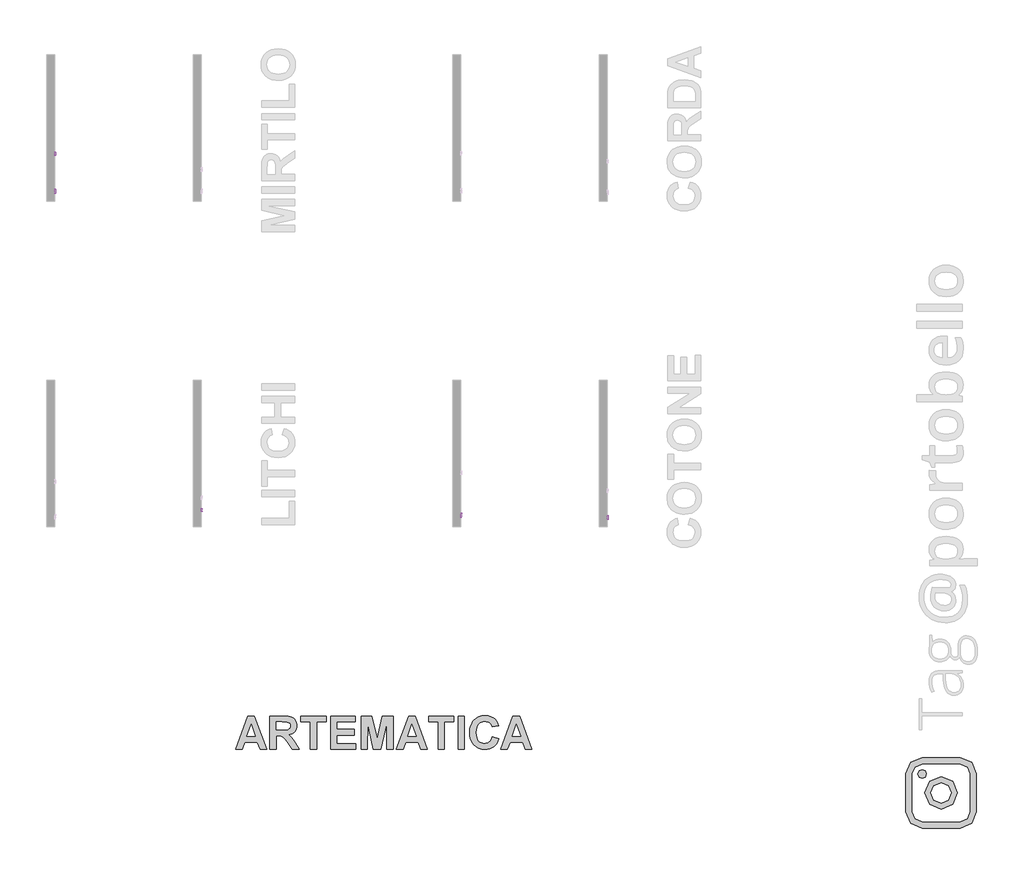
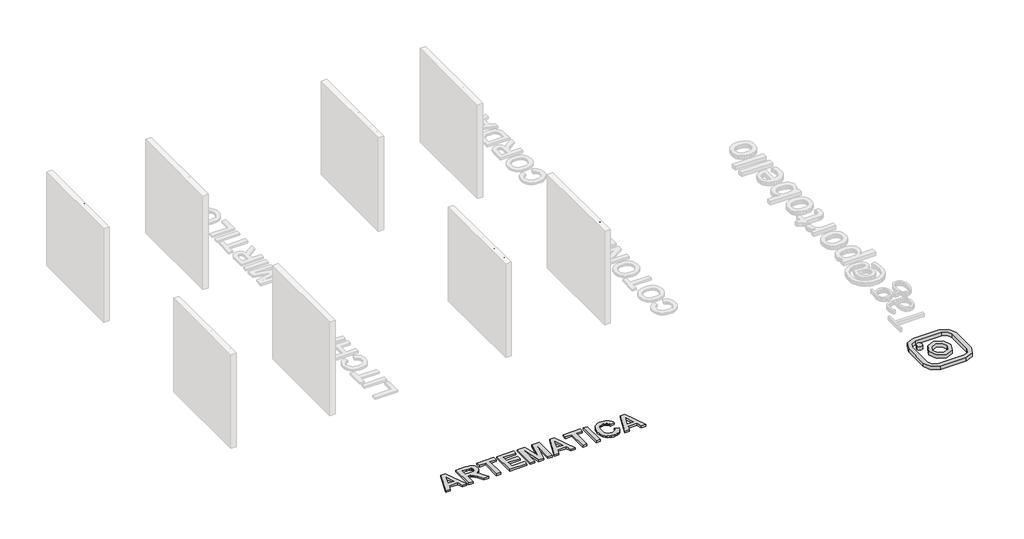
# One storey, part 3 of 9: 7 proxies.
"""IFC4 building model written with IfcOpenShell, lengths in millimetres."""

from ifc_helpers import new_model, si_unit, frame, origin, origin_with_axes, place, context, project, spatial, polyline, outline, extrude, transform, mapped, element, save
from components import generic_models_d67f6705

model = new_model("IFC4")

# Units and contexts
model_context = context("Model", 3, world=origin())
ifc_project = project(units=[si_unit("LENGTHUNIT", "METRE", prefix="MILLI")], contexts=[model_context])

# Site, building, storey
site = spatial("IfcSite", under=ifc_project)
building = spatial("IfcBuilding", under=site)
storey = spatial("IfcBuildingStorey", under=building, Name="PORTOBELLO - SHOWROOM", Elevation=0.0)

# Proxies
placement = place(None, origin())
generic_models_shape = generic_models_d67f6705(model_context)
element("IfcBuildingElementProxy", 1, Name="Blks_Instagram1 : Único 2", ObjectType="Blks_Instagram1 : Único 2", at=placement, inside=storey, context=model_context, shape_type="MappedRepresentation", body=[
    mapped(generic_models_shape, transform((14142.3733438, -13501.2406298, 0.0), x_axis=(-1.0, 0.0, 0.0), y_axis=(0.0, -1.0, 0.0), z_axis=(0.0, 0.0, 1.0))),
])
element("IfcBuildingElementProxy", 2, Name="10mm Arial", ObjectType="10mm Arial", at=placement, inside=storey, context=model_context, shape_type="SweptSolid", body=[
    extrude(outline(polyline([(-8391.2792549, 2594.0037435), (-8378.7222161, 2590.7663819), (-8384.5163575, 2576.1338755), (-8393.6091742, 2565.4438379), (-8405.5530763, 2558.9047354), (-8419.9004741, 2556.7250346), (-8434.4655354, 2558.3743722), (-8446.0323585, 2563.3223851), (-8454.8983146, 2571.3973948), (-8461.3607749, 2582.4277233), (-8466.6214875, 2609.283109), (-8465.1346311, 2623.9309438), (-8460.6740619, 2636.579953), (-8453.4727718, 2646.8285323), (-8443.7637528, 2654.275077), (-8432.2490464, 2658.8092226), (-8419.630694, 2660.3206045), (-8405.8627103, 2658.3646985), (-8394.4798282, 2652.4969807), (-8385.837667, 2643.0792016), (-8380.2918459, 2630.4731119), (-8392.8488847, 2627.481005), (-8403.1495806, 2642.9197861), (-8420.1212033, 2647.7635657), (-8439.7661018, 2642.3924886), (-8450.8638754, 2627.9715143), (-8454.0644487, 2609.3076345), (-8450.2752642, 2587.6761731), (-8438.4785148, 2573.8560729), (-8421.1512729, 2569.2820734), (-8410.6697017, 2570.8394405), (-8401.93557, 2575.5115418), (-8395.3412852, 2583.2493265), (-8391.2792549, 2594.0037435)])), frame((7985.6593854, 0.0, 0.0), z_axis=(1.0, 0.0, 0.0), x_axis=(0.0, 1.0, 0.0)), (0.0, 0.0, 1.0), 20.0),
    extrude(outline(polyline([(-8366.1651773, 2595.1809658), (-8363.4489819, 2612.9680603), (-8355.3003957, 2625.4699168), (-8345.2326918, 2631.595152), (-8333.1784251, 2633.6368971), (-8319.9867899, 2631.1506279), (-8309.4500364, 2623.6918205), (-8302.5430519, 2611.8490859), (-8300.2407238, 2596.2110354), (-8304.3119512, 2573.8683356), (-8316.1700142, 2561.2254577), (-8333.1784251, 2556.7250346), (-8346.5294758, 2559.2021067), (-8357.0539666, 2566.633323), (-8363.8873746, 2578.7243779), (-8366.1651773, 2595.1809658)]), holes=[polyline([(-8353.6081386, 2595.2054913), (-8352.1550047, 2583.8410033), (-8347.795603, 2575.7445338), (-8341.2350408, 2570.8976885), (-8333.1784251, 2569.2820734), (-8325.1585976, 2570.9068855), (-8318.6102981, 2575.781322), (-8314.2508964, 2583.9850905), (-8312.7977626, 2595.5978988), (-8314.2600935, 2606.6312929), (-8318.6470863, 2614.6173979), (-8325.2045829, 2619.4642432), (-8333.1784251, 2621.0798583), (-8341.2350408, 2619.4703746), (-8347.795603, 2614.6419234), (-8352.1550047, 2606.5638479), (-8353.6081386, 2595.2054913)])]), frame((7985.6593854, 0.0, 0.0), z_axis=(1.0, 0.0, 0.0), x_axis=(0.0, 1.0, 0.0)), (0.0, 0.0, 1.0), 20.0),
    extrude(outline(polyline([(-8259.4303478, 2568.7670386), (-8257.860718, 2557.9267825), (-8267.2539716, 2556.7250346), (-8277.7753966, 2558.8096992), (-8283.0238464, 2564.2788782), (-8284.5444253, 2578.5281742), (-8284.5444253, 2619.5102285), (-8293.9622044, 2619.5102285), (-8293.9622044, 2632.0672672), (-8284.5444253, 2632.0672672), (-8284.5444253, 2649.9953831), (-8271.9873866, 2657.3775485), (-8271.9873866, 2632.0672672), (-8259.4303478, 2632.0672672), (-8259.4303478, 2619.5102285), (-8271.9873866, 2619.5102285), (-8271.9873866, 2578.8960562), (-8271.325199, 2572.4213331), (-8269.1792207, 2570.128202), (-8264.8995268, 2569.2820734), (-8259.4303478, 2568.7670386)])), frame((7985.6593854, 0.0, 0.0), z_axis=(1.0, 0.0, 0.0), x_axis=(0.0, 1.0, 0.0)), (0.0, 0.0, 1.0), 20.0),
    extrude(outline(polyline([(-8250.0125687, 2595.1809658), (-8247.2963733, 2612.9680603), (-8239.1477871, 2625.4699168), (-8229.0800832, 2631.595152), (-8217.0258165, 2633.6368971), (-8203.8341813, 2631.1506279), (-8193.2974278, 2623.6918205), (-8186.3904433, 2611.8490859), (-8184.0881152, 2596.2110354), (-8188.1593426, 2573.8683356), (-8200.0174056, 2561.2254577), (-8217.0258165, 2556.7250346), (-8230.3768672, 2559.2021067), (-8240.901358, 2566.633323), (-8247.734766, 2578.7243779), (-8250.0125687, 2595.1809658)]), holes=[polyline([(-8237.45553, 2595.2054913), (-8236.0023961, 2583.8410033), (-8231.6429944, 2575.7445338), (-8225.0824322, 2570.8976885), (-8217.0258165, 2569.2820734), (-8209.005989, 2570.9068855), (-8202.4576895, 2575.781322), (-8198.0982878, 2583.9850905), (-8196.645154, 2595.5978988), (-8198.1074849, 2606.6312929), (-8202.4944777, 2614.6173979), (-8209.0519742, 2619.4642432), (-8217.0258165, 2621.0798583), (-8225.0824322, 2619.4703746), (-8231.6429944, 2614.6419234), (-8236.0023961, 2606.5638479), (-8237.45553, 2595.2054913)])]), frame((7985.6593854, 0.0, 0.0), z_axis=(1.0, 0.0, 0.0), x_axis=(0.0, 1.0, 0.0)), (0.0, 0.0, 1.0), 20.0),
    extrude(outline(polyline([(-8169.9614466, 2558.2946645), (-8169.9614466, 2632.0672672), (-8157.4044078, 2632.0672672), (-8157.4044078, 2621.7665714), (-8147.8026877, 2630.6693156), (-8134.693826, 2633.6368971), (-8122.835763, 2631.2456641), (-8114.7423591, 2624.9671447), (-8110.9777, 2615.7333066), (-8110.3155124, 2603.5932008), (-8110.3155124, 2558.2946645), (-8122.8725512, 2558.2946645), (-8122.8725512, 2601.9009436), (-8124.3195537, 2613.0109799), (-8129.4331134, 2618.8848291), (-8138.0538149, 2621.0798583), (-8151.6777114, 2616.1502396), (-8155.9727337, 2609.0071975), (-8157.4044078, 2597.4373087), (-8157.4044078, 2558.2946645), (-8169.9614466, 2558.2946645)])), frame((7985.6593854, 0.0, 0.0), z_axis=(1.0, 0.0, 0.0), x_axis=(0.0, 1.0, 0.0)), (0.0, 0.0, 1.0), 20.0),
    extrude(outline(polyline([(-8041.398952, 2580.2694823), (-8029.0871679, 2578.6998525), (-8033.5232116, 2569.4230948), (-8040.6018743, 2562.4885192), (-8050.1637405, 2558.1659058), (-8062.0493947, 2556.7250346), (-8076.7830686, 2559.2113038), (-8088.1199654, 2566.6701112), (-8095.3488466, 2578.617079), (-8097.7584737, 2594.5678292), (-8095.3243211, 2611.0550739), (-8088.0218635, 2623.3852521), (-8076.8382509, 2631.0739858), (-8062.7606332, 2633.6368971), (-8049.1214082, 2631.0801172), (-8038.2229041, 2623.4097776), (-8031.0767963, 2611.1041249), (-8028.6947604, 2594.6414056), (-8028.7683368, 2591.2568912), (-8085.2014349, 2591.2568912), (-8083.0278654, 2581.8575062), (-8077.978685, 2574.9474561), (-8070.6915559, 2570.6984191), (-8061.80414, 2569.2820734), (-8049.4923559, 2571.9062983), (-8041.398952, 2580.2694823)]), holes=[polyline([(-8085.2014349, 2603.81393), (-8041.2517992, 2603.81393), (-8046.2795198, 2615.1937464), (-8053.6003715, 2619.6083303), (-8062.8096841, 2621.0798583), (-8078.2729906, 2616.3832315), (-8083.13823, 2610.8925927), (-8085.2014349, 2603.81393)])]), frame((7985.6593854, 0.0, 0.0), z_axis=(1.0, 0.0, 0.0), x_axis=(0.0, 1.0, 0.0)), (0.0, 0.0, 1.0), 20.0),
])
element("IfcBuildingElementProxy", 3, Name="10mm Arial", ObjectType="10mm Arial", at=placement, inside=storey, context=model_context, shape_type="SweptSolid", body=[
    extrude(outline(polyline([(-8462.4526285, 2555.2578696), (-8462.4526285, 2655.7141797), (-8449.8955897, 2655.7141797), (-8449.8955897, 2567.8149084), (-8399.6674346, 2567.8149084), (-8399.6674346, 2555.2578696), (-8462.4526285, 2555.2578696)])), frame((499.3339478, 0.0, 0.0), z_axis=(1.0, 0.0, 0.0), x_axis=(0.0, 1.0, 0.0)), (0.0, 0.0, 1.0), 20.0),
    extrude(outline(polyline([(519.3339478, -8374.5533571), (519.3339478, -8387.1103959), (499.3339478, -8387.1103959), (499.3339478, -8374.5533571), (519.3339478, -8374.5533571)])), frame((0.0, 0.0, 2643.157141), z_axis=(0.0, 0.0, 1.0), x_axis=(1.0, 0.0, 0.0)), (0.0, 0.0, 1.0), 12.5570388),
    extrude(outline(polyline([(519.3339478, -8374.5533571), (519.3339478, -8387.1103959), (499.3339478, -8387.1103959), (499.3339478, -8374.5533571), (519.3339478, -8374.5533571)])), frame((0.0, 0.0, 2555.2578696), z_axis=(0.0, 0.0, 1.0), x_axis=(1.0, 0.0, 0.0)), (0.0, 0.0, 1.0), 73.7726028),
    extrude(outline(polyline([(-8329.0340916, 2565.7302437), (-8327.4644617, 2554.8899876), (-8336.8577153, 2553.6882397), (-8347.3791404, 2555.7729044), (-8352.6275902, 2561.2420834), (-8354.1481691, 2575.4913793), (-8354.1481691, 2616.4734336), (-8363.5659482, 2616.4734336), (-8363.5659482, 2629.0304724), (-8354.1481691, 2629.0304724), (-8354.1481691, 2646.9585882), (-8341.5911303, 2654.3407536), (-8341.5911303, 2629.0304724), (-8329.0340916, 2629.0304724), (-8329.0340916, 2616.4734336), (-8341.5911303, 2616.4734336), (-8341.5911303, 2575.8592613), (-8340.9289427, 2569.3845382), (-8338.7829644, 2567.0914071), (-8334.5032705, 2566.2452785), (-8329.0340916, 2565.7302437)])), frame((499.3339478, 0.0, 0.0), z_axis=(1.0, 0.0, 0.0), x_axis=(0.0, 1.0, 0.0)), (0.0, 0.0, 1.0), 20.0),
    extrude(outline(polyline([(-8269.3881574, 2581.941577), (-8256.8311186, 2580.3719471), (-8260.332129, 2569.2036629), (-8266.9110853, 2560.7638368), (-8275.9487197, 2555.457139), (-8286.825764, 2553.6882397), (-8300.1829461, 2556.1561148), (-8310.6277291, 2563.5597399), (-8317.3691666, 2575.5741528), (-8319.6163125, 2591.8743908), (-8315.778077, 2612.7333), (-8304.0794295, 2626.1364673), (-8286.9974422, 2630.6001022), (-8276.3871124, 2629.0672606), (-8267.9043667, 2624.4687356), (-8261.8189854, 2617.049782), (-8258.4007485, 2607.0556545), (-8270.9577872, 2605.4860247), (-8276.7825855, 2614.891541), (-8286.8993404, 2618.0430634), (-8295.0142041, 2616.4918277), (-8301.4552046, 2611.8381204), (-8305.6582564, 2603.8305557), (-8307.0592737, 2592.2177474), (-8305.6889133, 2580.4485892), (-8301.577832, 2572.4134333), (-8295.2533273, 2567.7873172), (-8287.2426969, 2566.2452785), (-8275.4091594, 2570.0957767), (-8269.3881574, 2581.941577)])), frame((499.3339478, 0.0, 0.0), z_axis=(1.0, 0.0, 0.0), x_axis=(0.0, 1.0, 0.0)), (0.0, 0.0, 1.0), 20.0),
    extrude(outline(polyline([(-8245.8437097, 2555.2578696), (-8245.8437097, 2655.7141797), (-8233.2866709, 2655.7141797), (-8233.2866709, 2618.7788274), (-8223.4948785, 2627.6447835), (-8211.4344804, 2630.6001022), (-8197.3323373, 2627.3750034), (-8188.7729495, 2618.4599964), (-8186.1977756, 2601.9543575), (-8186.1977756, 2555.2578696), (-8198.7548143, 2555.2578696), (-8198.7548143, 2600.6545078), (-8202.7524653, 2613.8982596), (-8214.0832308, 2618.0430634), (-8224.3716639, 2615.2471603), (-8231.2387945, 2607.6687912), (-8233.2866709, 2594.4495648), (-8233.2866709, 2555.2578696), (-8245.8437097, 2555.2578696)])), frame((499.3339478, 0.0, 0.0), z_axis=(1.0, 0.0, 0.0), x_axis=(0.0, 1.0, 0.0)), (0.0, 0.0, 1.0), 20.0),
    extrude(outline(polyline([(519.3339478, -8156.3748085), (519.3339478, -8168.9318473), (499.3339478, -8168.9318473), (499.3339478, -8156.3748085), (519.3339478, -8156.3748085)])), frame((0.0, 0.0, 2555.2578696), z_axis=(0.0, 0.0, 1.0), x_axis=(1.0, 0.0, 0.0)), (0.0, 0.0, 1.0), 73.7726028),
    extrude(outline(polyline([(519.3339478, -8156.3748085), (519.3339478, -8168.9318473), (499.3339478, -8168.9318473), (499.3339478, -8156.3748085), (519.3339478, -8156.3748085)])), frame((0.0, 0.0, 2643.157141), z_axis=(0.0, 0.0, 1.0), x_axis=(1.0, 0.0, 0.0)), (0.0, 0.0, 1.0), 12.5570388),
])
element("IfcBuildingElementProxy", 4, Name="10mm Arial", ObjectType="10mm Arial", at=placement, inside=storey, context=model_context, shape_type="SweptSolid", body=[
    extrude(outline(polyline([(-8429.7375496, 2542.7395478), (-8429.7375496, 2643.195858), (-8408.1306137, 2643.195858), (-8387.5782729, 2572.3908366), (-8383.4334691, 2557.6019804), (-8378.9453088, 2573.61711), (-8358.7363245, 2643.195858), (-8337.1293887, 2643.195858), (-8337.1293887, 2542.7395478), (-8349.6864274, 2542.7395478), (-8349.6864274, 2630.6388192), (-8374.9231323, 2542.7395478), (-8391.943806, 2542.7395478), (-8417.1805108, 2630.6388192), (-8417.1805108, 2542.7395478), (-8429.7375496, 2542.7395478)])), frame((5285.6593854, 0.0, 0.0), z_axis=(1.0, 0.0, 0.0), x_axis=(0.0, 1.0, 0.0)), (0.0, 0.0, 1.0), 20.0),
    extrude(outline(polyline([(5305.6593854, -8304.1671619), (5305.6593854, -8316.7242007), (5285.6593854, -8316.7242007), (5285.6593854, -8304.1671619), (5305.6593854, -8304.1671619)])), frame((0.0, 0.0, 2630.6388192), z_axis=(0.0, 0.0, 1.0), x_axis=(1.0, 0.0, 0.0)), (0.0, 0.0, 1.0), 12.5570388),
    extrude(outline(polyline([(5305.6593854, -8304.1671619), (5305.6593854, -8316.7242007), (5285.6593854, -8316.7242007), (5285.6593854, -8304.1671619), (5305.6593854, -8304.1671619)])), frame((0.0, 0.0, 2542.7395478), z_axis=(0.0, 0.0, 1.0), x_axis=(1.0, 0.0, 0.0)), (0.0, 0.0, 1.0), 73.7726028),
    extrude(outline(polyline([(-8285.3316038, 2542.7395478), (-8285.3316038, 2616.5121506), (-8272.774565, 2616.5121506), (-8272.774565, 2606.2114547), (-8263.1728449, 2615.114199), (-8250.0639832, 2618.0817804), (-8238.2059202, 2615.6905475), (-8230.1125163, 2609.4120281), (-8226.3478572, 2600.17819), (-8225.6856696, 2588.0380842), (-8225.6856696, 2542.7395478), (-8238.2427084, 2542.7395478), (-8238.2427084, 2586.345827), (-8239.6897109, 2597.4558632), (-8244.8032706, 2603.3297124), (-8253.423972, 2605.5247417), (-8267.0478686, 2600.5951229), (-8271.3428909, 2593.4520809), (-8272.774565, 2581.8821921), (-8272.774565, 2542.7395478), (-8285.3316038, 2542.7395478)])), frame((5285.6593854, 0.0, 0.0), z_axis=(1.0, 0.0, 0.0), x_axis=(0.0, 1.0, 0.0)), (0.0, 0.0, 1.0), 20.0),
    extrude(outline(polyline([(5305.6593854, -8195.8627025), (5305.6593854, -8208.4197413), (5285.6593854, -8208.4197413), (5285.6593854, -8195.8627025), (5305.6593854, -8195.8627025)])), frame((0.0, 0.0, 2630.6388192), z_axis=(0.0, 0.0, 1.0), x_axis=(1.0, 0.0, 0.0)), (0.0, 0.0, 1.0), 12.5570388),
    extrude(outline(polyline([(5305.6593854, -8195.8627025), (5305.6593854, -8208.4197413), (5285.6593854, -8208.4197413), (5285.6593854, -8195.8627025), (5305.6593854, -8195.8627025)])), frame((0.0, 0.0, 2542.7395478), z_axis=(0.0, 0.0, 1.0), x_axis=(1.0, 0.0, 0.0)), (0.0, 0.0, 1.0), 73.7726028),
    extrude(outline(polyline([(-8065.5834253, 2578.4486268), (-8053.0263865, 2575.2112653), (-8058.820528, 2560.5787589), (-8067.9133446, 2549.8887213), (-8079.8572467, 2543.3496188), (-8094.2046445, 2541.169918), (-8108.7697059, 2542.8192556), (-8120.3365289, 2547.7672684), (-8129.202485, 2555.8422782), (-8135.6649454, 2566.8726067), (-8140.9256579, 2593.7279924), (-8139.4388015, 2608.3758271), (-8134.9782323, 2621.0248364), (-8127.7769423, 2631.2734157), (-8118.0679233, 2638.7199604), (-8106.5532168, 2643.254106), (-8093.9348644, 2644.7654878), (-8080.1668807, 2642.8095819), (-8068.7839987, 2636.9418641), (-8060.1418375, 2627.524085), (-8054.5960164, 2614.9179953), (-8067.1530551, 2611.9258884), (-8077.453751, 2627.3646695), (-8094.4253737, 2632.2084491), (-8114.0702723, 2626.8373719), (-8125.1680458, 2612.4163977), (-8128.3686191, 2593.7525178), (-8124.5794346, 2572.1210565), (-8112.7826853, 2558.3009562), (-8095.4554433, 2553.7269568), (-8084.9738721, 2555.2843239), (-8076.2397404, 2559.9564252), (-8069.6454557, 2567.6942098), (-8065.5834253, 2578.4486268)])), frame((5285.6593854, 0.0, 0.0), z_axis=(1.0, 0.0, 0.0), x_axis=(0.0, 1.0, 0.0)), (0.0, 0.0, 1.0), 20.0),
    extrude(outline(polyline([(-8040.4693478, 2579.6258492), (-8037.7531524, 2597.4129437), (-8029.6045662, 2609.9148001), (-8019.5368622, 2616.0400354), (-8007.4825955, 2618.0817804), (-7994.2909603, 2615.5955113), (-7983.7542068, 2608.1367038), (-7976.8472224, 2596.2939693), (-7974.5448942, 2580.6559188), (-7978.6161216, 2558.313219), (-7990.4741846, 2545.6703411), (-8007.4825955, 2541.169918), (-8020.8336463, 2543.6469901), (-8031.358137, 2551.0782064), (-8038.1915451, 2563.1692613), (-8040.4693478, 2579.6258492)]), holes=[polyline([(-8027.912309, 2579.6503747), (-8026.4591751, 2568.2858867), (-8022.0997735, 2560.1894171), (-8015.5392112, 2555.3425718), (-8007.4825955, 2553.7269568), (-7999.462768, 2555.3517689), (-7992.9144685, 2560.2262053), (-7988.5550669, 2568.4299738), (-7987.101933, 2580.0427821), (-7988.5642639, 2591.0761763), (-7992.9512567, 2599.0622813), (-7999.5087533, 2603.9091266), (-8007.4825955, 2605.5247417), (-8015.5392112, 2603.9152579), (-8022.0997735, 2599.0868068), (-8026.4591751, 2591.0087313), (-8027.912309, 2579.6503747)])]), frame((5285.6593854, 0.0, 0.0), z_axis=(1.0, 0.0, 0.0), x_axis=(0.0, 1.0, 0.0)), (0.0, 0.0, 1.0), 20.0),
    extrude(outline(polyline([(-7933.7345182, 2553.211922), (-7932.1648884, 2542.3716658), (-7941.558142, 2541.169918), (-7952.0795671, 2543.2545826), (-7957.3280169, 2548.7237616), (-7958.8485958, 2562.9730576), (-7958.8485958, 2603.9551118), (-7968.2663748, 2603.9551118), (-7968.2663748, 2616.5121506), (-7958.8485958, 2616.5121506), (-7958.8485958, 2634.4402665), (-7946.291557, 2641.8224319), (-7946.291557, 2616.5121506), (-7933.7345182, 2616.5121506), (-7933.7345182, 2603.9551118), (-7946.291557, 2603.9551118), (-7946.291557, 2563.3409396), (-7945.6293694, 2556.8662164), (-7943.4833911, 2554.5730853), (-7939.2036972, 2553.7269568), (-7933.7345182, 2553.211922)])), frame((5285.6593854, 0.0, 0.0), z_axis=(1.0, 0.0, 0.0), x_axis=(0.0, 1.0, 0.0)), (0.0, 0.0, 1.0), 20.0),
    extrude(outline(polyline([(-7924.3167392, 2579.6258492), (-7921.6005438, 2597.4129437), (-7913.4519576, 2609.9148001), (-7903.3842536, 2616.0400354), (-7891.3299869, 2618.0817804), (-7878.1383517, 2615.5955113), (-7867.6015982, 2608.1367038), (-7860.6946138, 2596.2939693), (-7858.3922856, 2580.6559188), (-7862.463513, 2558.313219), (-7874.321576, 2545.6703411), (-7891.3299869, 2541.169918), (-7904.6810377, 2543.6469901), (-7915.2055284, 2551.0782064), (-7922.0389365, 2563.1692613), (-7924.3167392, 2579.6258492)]), holes=[polyline([(-7911.7597004, 2579.6503747), (-7910.3065665, 2568.2858867), (-7905.9471649, 2560.1894171), (-7899.3866026, 2555.3425718), (-7891.3299869, 2553.7269568), (-7883.3101594, 2555.3517689), (-7876.7618599, 2560.2262053), (-7872.4024583, 2568.4299738), (-7870.9493244, 2580.0427821), (-7872.4116553, 2591.0761763), (-7876.7986481, 2599.0622813), (-7883.3561447, 2603.9091266), (-7891.3299869, 2605.5247417), (-7899.3866026, 2603.9152579), (-7905.9471649, 2599.0868068), (-7910.3065665, 2591.0087313), (-7911.7597004, 2579.6503747)])]), frame((5285.6593854, 0.0, 0.0), z_axis=(1.0, 0.0, 0.0), x_axis=(0.0, 1.0, 0.0)), (0.0, 0.0, 1.0), 20.0),
    extrude(outline(polyline([(-7844.265617, 2542.7395478), (-7844.265617, 2616.5121506), (-7831.7085782, 2616.5121506), (-7831.7085782, 2606.2114547), (-7822.1068582, 2615.114199), (-7808.9979964, 2618.0817804), (-7797.1399334, 2615.6905475), (-7789.0465295, 2609.4120281), (-7785.2818704, 2600.17819), (-7784.6196829, 2588.0380842), (-7784.6196829, 2542.7395478), (-7797.1767216, 2542.7395478), (-7797.1767216, 2586.345827), (-7798.6237241, 2597.4558632), (-7803.7372839, 2603.3297124), (-7812.3579853, 2605.5247417), (-7825.9818818, 2600.5951229), (-7830.2769041, 2593.4520809), (-7831.7085782, 2581.8821921), (-7831.7085782, 2542.7395478), (-7844.265617, 2542.7395478)])), frame((5285.6593854, 0.0, 0.0), z_axis=(1.0, 0.0, 0.0), x_axis=(0.0, 1.0, 0.0)), (0.0, 0.0, 1.0), 20.0),
    extrude(outline(polyline([(-7715.7031224, 2564.7143657), (-7703.3913383, 2563.1447358), (-7707.827382, 2553.8679782), (-7714.9060448, 2546.9334026), (-7724.467911, 2542.6107891), (-7736.3535651, 2541.169918), (-7751.087239, 2543.6561871), (-7762.4241358, 2551.1149946), (-7769.653017, 2563.0619624), (-7772.0626441, 2579.0127126), (-7769.6284915, 2595.4999573), (-7762.3260339, 2607.8301355), (-7751.1424213, 2615.5188692), (-7737.0648036, 2618.0817804), (-7723.4255786, 2615.5250006), (-7712.5270745, 2607.854661), (-7705.3809668, 2595.5490082), (-7702.9989309, 2579.086289), (-7703.0725073, 2575.7017746), (-7759.5056053, 2575.7017746), (-7757.3320359, 2566.3023896), (-7752.2828555, 2559.3923395), (-7744.9957263, 2555.1433024), (-7736.1083104, 2553.7269568), (-7723.7965263, 2556.3511817), (-7715.7031224, 2564.7143657)]), holes=[polyline([(-7759.5056053, 2588.2588134), (-7715.5559696, 2588.2588134), (-7720.5836902, 2599.6386297), (-7727.9045419, 2604.0532137), (-7737.1138545, 2605.5247417), (-7752.5771611, 2600.8281149), (-7757.4424005, 2595.3374761), (-7759.5056053, 2588.2588134)])]), frame((5285.6593854, 0.0, 0.0), z_axis=(1.0, 0.0, 0.0), x_axis=(0.0, 1.0, 0.0)), (0.0, 0.0, 1.0), 20.0),
])
element("IfcBuildingElementProxy", 5, Name="10mm Arial", ObjectType="10mm Arial", at=placement, inside=storey, context=model_context, shape_type="SweptSolid", body=[
    extrude(outline(polyline([(-2453.4813754, 2559.3958413), (-2453.4813754, 2659.8521515), (-2431.8744396, 2659.8521515), (-2411.3220988, 2589.0471301), (-2407.177295, 2574.2582739), (-2402.6891346, 2590.2734034), (-2382.4801504, 2659.8521515), (-2360.8732145, 2659.8521515), (-2360.8732145, 2559.3958413), (-2373.4302533, 2559.3958413), (-2373.4302533, 2647.2951127), (-2398.6669582, 2559.3958413), (-2415.6876318, 2559.3958413), (-2440.9243367, 2647.2951127), (-2440.9243367, 2559.3958413), (-2453.4813754, 2559.3958413)])), frame((-2200.641693, 0.0, 0.0), z_axis=(1.0, 0.0, 0.0), x_axis=(0.0, 1.0, 0.0)), (0.0, 0.0, 1.0), 20.0),
    extrude(outline(polyline([(-2180.641693, -2327.9109878), (-2180.641693, -2340.4680265), (-2200.641693, -2340.4680265), (-2200.641693, -2327.9109878), (-2180.641693, -2327.9109878)])), frame((0.0, 0.0, 2647.2951127), z_axis=(0.0, 0.0, 1.0), x_axis=(1.0, 0.0, 0.0)), (0.0, 0.0, 1.0), 12.5570388),
    extrude(outline(polyline([(-2180.641693, -2327.9109878), (-2180.641693, -2340.4680265), (-2200.641693, -2340.4680265), (-2200.641693, -2327.9109878), (-2180.641693, -2327.9109878)])), frame((0.0, 0.0, 2559.3958413), z_axis=(0.0, 0.0, 1.0), x_axis=(1.0, 0.0, 0.0)), (0.0, 0.0, 1.0), 73.7726028),
    extrude(outline(polyline([(-2309.0754296, 2559.3958413), (-2309.0754296, 2633.1684441), (-2296.5183908, 2633.1684441), (-2296.5183908, 2622.8677482), (-2286.9166708, 2631.7704925), (-2273.807809, 2634.7380739), (-2261.949746, 2632.346841), (-2253.8563421, 2626.0683216), (-2250.091683, 2616.8344835), (-2249.4294955, 2604.6943777), (-2249.4294955, 2559.3958413), (-2261.9865342, 2559.3958413), (-2261.9865342, 2603.0021205), (-2263.4335367, 2614.1121567), (-2268.5470965, 2619.9860059), (-2277.1677979, 2622.1810352), (-2290.7916944, 2617.2514164), (-2295.0867167, 2610.1083744), (-2296.5183908, 2598.5384856), (-2296.5183908, 2559.3958413), (-2309.0754296, 2559.3958413)])), frame((-2200.641693, 0.0, 0.0), z_axis=(1.0, 0.0, 0.0), x_axis=(0.0, 1.0, 0.0)), (0.0, 0.0, 1.0), 20.0),
    extrude(outline(polyline([(-2180.641693, -2219.6065284), (-2180.641693, -2232.1635671), (-2200.641693, -2232.1635671), (-2200.641693, -2219.6065284), (-2180.641693, -2219.6065284)])), frame((0.0, 0.0, 2647.2951127), z_axis=(0.0, 0.0, 1.0), x_axis=(1.0, 0.0, 0.0)), (0.0, 0.0, 1.0), 12.5570388),
    extrude(outline(polyline([(-2180.641693, -2219.6065284), (-2180.641693, -2232.1635671), (-2200.641693, -2232.1635671), (-2200.641693, -2219.6065284), (-2180.641693, -2219.6065284)])), frame((0.0, 0.0, 2559.3958413), z_axis=(0.0, 0.0, 1.0), x_axis=(1.0, 0.0, 0.0)), (0.0, 0.0, 1.0), 73.7726028),
    extrude(outline(polyline([(-2159.9605942, 2559.3958413), (-2159.9605942, 2659.8521515), (-2138.3536584, 2659.8521515), (-2117.8013176, 2589.0471301), (-2113.6565138, 2574.2582739), (-2109.1683534, 2590.2734034), (-2088.9593692, 2659.8521515), (-2067.3524333, 2659.8521515), (-2067.3524333, 2559.3958413), (-2079.9094721, 2559.3958413), (-2079.9094721, 2647.2951127), (-2105.1461769, 2559.3958413), (-2122.1668506, 2559.3958413), (-2147.4035555, 2647.2951127), (-2147.4035555, 2559.3958413), (-2159.9605942, 2559.3958413)])), frame((-2200.641693, 0.0, 0.0), z_axis=(1.0, 0.0, 0.0), x_axis=(0.0, 1.0, 0.0)), (0.0, 0.0, 1.0), 20.0),
    extrude(outline(polyline([(-2180.641693, -2034.3902065), (-2180.641693, -2046.9472453), (-2200.641693, -2046.9472453), (-2200.641693, -2034.3902065), (-2180.641693, -2034.3902065)])), frame((0.0, 0.0, 2647.2951127), z_axis=(0.0, 0.0, 1.0), x_axis=(1.0, 0.0, 0.0)), (0.0, 0.0, 1.0), 12.5570388),
    extrude(outline(polyline([(-2180.641693, -2034.3902065), (-2180.641693, -2046.9472453), (-2200.641693, -2046.9472453), (-2200.641693, -2034.3902065), (-2180.641693, -2034.3902065)])), frame((0.0, 0.0, 2559.3958413), z_axis=(0.0, 0.0, 1.0), x_axis=(1.0, 0.0, 0.0)), (0.0, 0.0, 1.0), 73.7726028),
    extrude(outline(polyline([(-1941.7820456, 2569.8682154), (-1940.2124158, 2559.0279593), (-1949.6056694, 2557.8262115), (-1960.1270944, 2559.9108761), (-1965.3755442, 2565.3800551), (-1966.8961232, 2579.6293511), (-1966.8961232, 2620.6114053), (-1976.3139022, 2620.6114053), (-1976.3139022, 2630.8630502), (-1976.3139022, 2633.1684441), (-1966.8961232, 2633.1684441), (-1966.8961232, 2651.09656), (-1954.3390844, 2658.4787254), (-1954.3390844, 2633.1684441), (-1941.7820456, 2633.1684441), (-1941.7820456, 2620.6114053), (-1954.3390844, 2620.6114053), (-1954.3390844, 2579.997233), (-1953.6768968, 2573.5225099), (-1951.5309185, 2571.2293788), (-1947.2512246, 2570.3832502), (-1941.7820456, 2569.8682154)])), frame((-2200.641693, 0.0, 0.0), z_axis=(1.0, 0.0, 0.0), x_axis=(0.0, 1.0, 0.0)), (0.0, 0.0, 1.0), 20.0),
    extrude(outline(polyline([(-2015.5546484, 2559.3958413), (-2015.5546484, 2633.1684441), (-2004.5672395, 2633.1684441), (-2004.5672395, 2622.2546116), (-1996.7681412, 2632.3100528), (-1988.9199919, 2634.7380739), (-1976.3139022, 2630.8630502), (-1980.507757, 2619.6058612), (-1989.3369249, 2622.1810352), (-1996.4370474, 2619.7039631), (-2000.9619959, 2612.8368325), (-2002.9976096, 2598.1706036), (-2002.9976096, 2559.3958413), (-2015.5546484, 2559.3958413)])), frame((-2200.641693, 0.0, 0.0), z_axis=(1.0, 0.0, 0.0), x_axis=(0.0, 1.0, 0.0)), (0.0, 0.0, 1.0), 20.0),
    extrude(outline(polyline([(-2180.641693, -1916.6679681), (-2180.641693, -1929.2250069), (-2200.641693, -1929.2250069), (-2200.641693, -1916.6679681), (-2180.641693, -1916.6679681)])), frame((0.0, 0.0, 2647.2951127), z_axis=(0.0, 0.0, 1.0), x_axis=(1.0, 0.0, 0.0)), (0.0, 0.0, 1.0), 12.5570388),
    extrude(outline(polyline([(-2180.641693, -1916.6679681), (-2180.641693, -1929.2250069), (-2200.641693, -1929.2250069), (-2200.641693, -1916.6679681), (-2180.641693, -1916.6679681)])), frame((0.0, 0.0, 2559.3958413), z_axis=(0.0, 0.0, 1.0), x_axis=(1.0, 0.0, 0.0)), (0.0, 0.0, 1.0), 73.7726028),
    extrude(outline(polyline([(-2180.641693, -1885.2753712), (-2180.641693, -1897.8324099), (-2200.641693, -1897.8324099), (-2200.641693, -1885.2753712), (-2180.641693, -1885.2753712)])), frame((0.0, 0.0, 2559.3958413), z_axis=(0.0, 0.0, 1.0), x_axis=(1.0, 0.0, 0.0)), (0.0, 0.0, 1.0), 100.4563101),
    extrude(outline(polyline([(-1869.5790727, 2596.2821427), (-1866.8628773, 2614.0692372), (-1858.7142911, 2626.5710936), (-1848.6465872, 2632.6963289), (-1836.5923205, 2634.7380739), (-1823.4006853, 2632.2518048), (-1812.8639318, 2624.7929973), (-1805.9569473, 2612.9502628), (-1803.6546192, 2597.3122123), (-1807.7258466, 2574.9695124), (-1819.5839096, 2562.3266345), (-1836.5923205, 2557.8262115), (-1849.9433712, 2560.3032836), (-1860.467862, 2567.7344999), (-1867.30127, 2579.8255548), (-1869.5790727, 2596.2821427)]), holes=[polyline([(-1857.0220339, 2596.3066682), (-1855.5689001, 2584.9421802), (-1851.2094984, 2576.8457106), (-1844.6489362, 2571.9988653), (-1836.5923205, 2570.3832502), (-1828.572493, 2572.0080624), (-1822.0241935, 2576.8824988), (-1817.6647918, 2585.0862673), (-1816.2116579, 2596.6990756), (-1817.6739889, 2607.7324698), (-1822.0609817, 2615.7185748), (-1828.6184782, 2620.5654201), (-1836.5923205, 2622.1810352), (-1844.6489362, 2620.5715514), (-1851.2094984, 2615.7431002), (-1855.5689001, 2607.6650248), (-1857.0220339, 2596.3066682)])]), frame((-2200.641693, 0.0, 0.0), z_axis=(1.0, 0.0, 0.0), x_axis=(0.0, 1.0, 0.0)), (0.0, 0.0, 1.0), 20.0),
])
element("IfcBuildingElementProxy", 6, Name="10mm Arial", ObjectType="10mm Arial", at=placement, inside=storey, context=model_context, shape_type="SweptSolid", body=[
    extrude(outline(polyline([(-1753.4813754, 2559.3958413), (-1753.4813754, 2659.8521515), (-1716.2517175, 2659.8521515), (-1701.2421321, 2658.8956583), (-1689.0407126, 2654.1990315), (-1681.1312497, 2644.4869468), (-1678.1391428, 2630.7894738), (-1680.1594281, 2618.949805), (-1686.220284, 2609.0844361), (-1697.5541151, 2602.425772), (-1715.3933262, 2600.2062173), (-1740.9243367, 2600.2062173), (-1740.9243367, 2559.3958413), (-1753.4813754, 2559.3958413)]), holes=[polyline([(-1740.9243367, 2612.7632561), (-1714.6575622, 2612.7632561), (-1696.1653606, 2617.3740438), (-1692.0634764, 2622.9229305), (-1690.6961816, 2630.3480155), (-1693.9212804, 2640.7468132), (-1702.394829, 2646.4367214), (-1714.9518678, 2647.2951127), (-1740.9243367, 2647.2951127), (-1740.9243367, 2612.7632561)])]), frame((-2200.641693, 0.0, 0.0), z_axis=(1.0, 0.0, 0.0), x_axis=(0.0, 1.0, 0.0)), (0.0, 0.0, 1.0), 20.0),
    extrude(outline(polyline([(-1665.5821041, 2596.2821427), (-1662.8659087, 2614.0692372), (-1654.7173225, 2626.5710936), (-1644.6496185, 2632.6963289), (-1632.5953518, 2634.7380739), (-1619.4037166, 2632.2518048), (-1608.8669631, 2624.7929973), (-1601.9599787, 2612.9502628), (-1599.6576505, 2597.3122123), (-1603.7288779, 2574.9695124), (-1615.5869409, 2562.3266345), (-1632.5953518, 2557.8262115), (-1645.9464026, 2560.3032836), (-1656.4708933, 2567.7344999), (-1663.3043014, 2579.8255548), (-1665.5821041, 2596.2821427)]), holes=[polyline([(-1653.0250653, 2596.3066682), (-1651.5719314, 2584.9421802), (-1647.2125298, 2576.8457106), (-1640.6519675, 2571.9988653), (-1632.5953518, 2570.3832502), (-1624.5755243, 2572.0080624), (-1618.0272248, 2576.8824988), (-1613.6678232, 2585.0862673), (-1612.2146893, 2596.6990756), (-1613.6770202, 2607.7324698), (-1618.064013, 2615.7185748), (-1624.6215096, 2620.5654201), (-1632.5953518, 2622.1810352), (-1640.6519675, 2620.5715514), (-1647.2125298, 2615.7431002), (-1651.5719314, 2607.6650248), (-1653.0250653, 2596.3066682)])]), frame((-2200.641693, 0.0, 0.0), z_axis=(1.0, 0.0, 0.0), x_axis=(0.0, 1.0, 0.0)), (0.0, 0.0, 1.0), 20.0),
    extrude(outline(polyline([(-1585.5309819, 2559.3958413), (-1585.5309819, 2633.1684441), (-1574.543573, 2633.1684441), (-1574.543573, 2622.2546116), (-1566.7444747, 2632.3100528), (-1558.8963255, 2634.7380739), (-1546.2902358, 2630.8630502), (-1550.4840905, 2619.6058612), (-1559.3132584, 2622.1810352), (-1566.4133809, 2619.7039631), (-1570.9383294, 2612.8368325), (-1572.9739431, 2598.1706036), (-1572.9739431, 2559.3958413), (-1585.5309819, 2559.3958413)])), frame((-2200.641693, 0.0, 0.0), z_axis=(1.0, 0.0, 0.0), x_axis=(0.0, 1.0, 0.0)), (0.0, 0.0, 1.0), 20.0),
    extrude(outline(polyline([(-1511.7583791, 2569.8682154), (-1510.1887493, 2559.0279593), (-1519.5820029, 2557.8262115), (-1530.103428, 2559.9108761), (-1535.3518778, 2565.3800551), (-1536.8724567, 2579.6293511), (-1536.8724567, 2620.6114053), (-1546.2902358, 2620.6114053), (-1546.2902358, 2630.8630502), (-1546.2902358, 2633.1684441), (-1536.8724567, 2633.1684441), (-1536.8724567, 2651.09656), (-1524.3154179, 2658.4787254), (-1524.3154179, 2633.1684441), (-1511.7583791, 2633.1684441), (-1511.7583791, 2620.6114053), (-1524.3154179, 2620.6114053), (-1524.3154179, 2579.997233), (-1523.6532303, 2573.5225099), (-1521.507252, 2571.2293788), (-1517.2275581, 2570.3832502), (-1511.7583791, 2569.8682154)])), frame((-2200.641693, 0.0, 0.0), z_axis=(1.0, 0.0, 0.0), x_axis=(0.0, 1.0, 0.0)), (0.0, 0.0, 1.0), 20.0),
    extrude(outline(polyline([(-1502.3406001, 2596.2821427), (-1499.6244047, 2614.0692372), (-1491.4758185, 2626.5710936), (-1481.4081145, 2632.6963289), (-1469.3538478, 2634.7380739), (-1456.1622126, 2632.2518048), (-1445.6254591, 2624.7929973), (-1438.7184747, 2612.9502628), (-1436.4161465, 2597.3122123), (-1440.4873739, 2574.9695124), (-1452.3454369, 2562.3266345), (-1469.3538478, 2557.8262115), (-1482.7048986, 2560.3032836), (-1493.2293893, 2567.7344999), (-1500.0627974, 2579.8255548), (-1502.3406001, 2596.2821427)]), holes=[polyline([(-1489.7835613, 2596.3066682), (-1488.3304274, 2584.9421802), (-1483.9710258, 2576.8457106), (-1477.4104635, 2571.9988653), (-1469.3538478, 2570.3832502), (-1461.3340203, 2572.0080624), (-1454.7857208, 2576.8824988), (-1450.4263192, 2585.0862673), (-1448.9731853, 2596.6990756), (-1450.4355162, 2607.7324698), (-1454.822509, 2615.7185748), (-1461.3800056, 2620.5654201), (-1469.3538478, 2622.1810352), (-1477.4104635, 2620.5715514), (-1483.9710258, 2615.7431002), (-1488.3304274, 2607.6650248), (-1489.7835613, 2596.3066682)])]), frame((-2200.641693, 0.0, 0.0), z_axis=(1.0, 0.0, 0.0), x_axis=(0.0, 1.0, 0.0)), (0.0, 0.0, 1.0), 20.0),
    extrude(outline(polyline([(-1409.7324392, 2559.3958413), (-1422.2894779, 2559.3958413), (-1422.2894779, 2659.8521515), (-1409.7324392, 2659.8521515), (-1409.7324392, 2622.5979681), (-1400.9400595, 2631.7030475), (-1390.0139642, 2634.7380739), (-1377.4324, 2632.0034844), (-1367.6712644, 2624.3147507), (-1361.6747878, 2612.3585859), (-1359.5042841, 2597.3857887), (-1361.7514299, 2580.6226324), (-1368.4928675, 2568.1514328), (-1378.3858275, 2560.4075168), (-1390.0875406, 2557.8262115), (-1401.2527592, 2561.1555435), (-1409.7324392, 2571.1435397), (-1409.7324392, 2559.3958413)]), holes=[polyline([(-1409.7324392, 2596.7971775), (-1406.2988739, 2579.2369436), (-1399.7199175, 2572.5966736), (-1391.1666611, 2570.3832502), (-1383.9193858, 2572.0141938), (-1377.7267056, 2576.9070243), (-1373.4776685, 2585.031085), (-1372.0613228, 2596.3557191), (-1373.4194205, 2607.8459001), (-1377.4937136, 2615.8779903), (-1383.4932558, 2620.6052739), (-1390.6271009, 2622.1810352), (-1397.8743762, 2620.5500916), (-1404.0670564, 2615.6572611), (-1408.3160935, 2607.6803532), (-1409.7324392, 2596.7971775)])]), frame((-2200.641693, 0.0, 0.0), z_axis=(1.0, 0.0, 0.0), x_axis=(0.0, 1.0, 0.0)), (0.0, 0.0, 1.0), 20.0),
    extrude(outline(polyline([(-1293.7269833, 2581.3706592), (-1281.4151992, 2579.8010293), (-1285.851243, 2570.5242717), (-1292.9299057, 2563.5896961), (-1302.4917719, 2559.2670826), (-1314.377426, 2557.8262115), (-1329.1110999, 2560.3124806), (-1340.4479967, 2567.7712881), (-1347.6768779, 2579.7182559), (-1350.086505, 2595.669006), (-1347.6523525, 2612.1562508), (-1340.3498949, 2624.486429), (-1329.1662822, 2632.1751627), (-1315.0886645, 2634.7380739), (-1301.4494396, 2632.1812941), (-1290.5509354, 2624.5109545), (-1283.4048277, 2612.2053017), (-1281.0227918, 2595.7425824), (-1281.0963682, 2592.3580681), (-1337.5294662, 2592.3580681), (-1335.3558968, 2582.9586831), (-1330.3067164, 2576.048633), (-1323.0195872, 2571.7995959), (-1314.1321713, 2570.3832502), (-1301.8203872, 2573.0074751), (-1293.7269833, 2581.3706592)]), holes=[polyline([(-1337.5294662, 2604.9151069), (-1293.5798305, 2604.9151069), (-1298.6075511, 2616.2949232), (-1305.9284028, 2620.7095072), (-1315.1377155, 2622.1810352), (-1330.601022, 2617.4844084), (-1335.4662614, 2611.9937696), (-1337.5294662, 2604.9151069)])]), frame((-2200.641693, 0.0, 0.0), z_axis=(1.0, 0.0, 0.0), x_axis=(0.0, 1.0, 0.0)), (0.0, 0.0, 1.0), 20.0),
    extrude(outline(polyline([(-2180.641693, -1255.9087142), (-2180.641693, -1268.465753), (-2200.641693, -1268.465753), (-2200.641693, -1255.9087142), (-2180.641693, -1255.9087142)])), frame((0.0, 0.0, 2559.3958413), z_axis=(0.0, 0.0, 1.0), x_axis=(1.0, 0.0, 0.0)), (0.0, 0.0, 1.0), 100.4563101),
    extrude(outline(polyline([(-2180.641693, -1224.5161173), (-2180.641693, -1237.0731561), (-2200.641693, -1237.0731561), (-2200.641693, -1224.5161173), (-2180.641693, -1224.5161173)])), frame((0.0, 0.0, 2559.3958413), z_axis=(0.0, 0.0, 1.0), x_axis=(1.0, 0.0, 0.0)), (0.0, 0.0, 1.0), 100.4563101),
    extrude(outline(polyline([(-1208.8198189, 2596.2821427), (-1206.1036235, 2614.0692372), (-1197.9550373, 2626.5710936), (-1187.8873333, 2632.6963289), (-1175.8330666, 2634.7380739), (-1162.6414314, 2632.2518048), (-1152.1046779, 2624.7929973), (-1145.1976935, 2612.9502628), (-1142.8953653, 2597.3122123), (-1146.9665927, 2574.9695124), (-1158.8246557, 2562.3266345), (-1175.8330666, 2557.8262115), (-1189.1841174, 2560.3032836), (-1199.7086081, 2567.7344999), (-1206.5420162, 2579.8255548), (-1208.8198189, 2596.2821427)]), holes=[polyline([(-1196.2627801, 2596.3066682), (-1194.8096462, 2584.9421802), (-1190.4502446, 2576.8457106), (-1183.8896823, 2571.9988653), (-1175.8330666, 2570.3832502), (-1167.8132391, 2572.0080624), (-1161.2649396, 2576.8824988), (-1156.905538, 2585.0862673), (-1155.4524041, 2596.6990756), (-1156.914735, 2607.7324698), (-1161.3017278, 2615.7185748), (-1167.8592244, 2620.5654201), (-1175.8330666, 2622.1810352), (-1183.8896823, 2620.5715514), (-1190.4502446, 2615.7431002), (-1194.8096462, 2607.6650248), (-1196.2627801, 2596.3066682)])]), frame((-2200.641693, 0.0, 0.0), z_axis=(1.0, 0.0, 0.0), x_axis=(0.0, 1.0, 0.0)), (0.0, 0.0, 1.0), 20.0),
])
element("IfcBuildingElementProxy", 7, Name="600mm Arial", ObjectType="600mm Arial", at=placement, inside=storey, context=model_context, shape_type="SweptSolid", body=[
    extrude(outline(polyline([(1708.4959501, -12698.4170274), (1585.9737275, -12698.4170274), (1537.9972438, -12562.3824407), (1306.7688113, -12562.3824407), (1259.3996249, -12698.4170274), (1135.2073348, -12698.4170274), (1358.6927272, -12086.2613874), (1482.8850173, -12086.2613874), (1708.4959501, -12698.4170274)]), holes=[polyline([(1500.6484622, -12455.4981226), (1421.8516424, -12232.0127303), (1344.1175929, -12455.4981226), (1500.6484622, -12455.4981226)])]), origin_with_axes(), (0.0, 0.0, 1.0), 50.0),
    extrude(outline(polyline([(1766.7964872, -12698.4170274), (1766.7964872, -12086.2613874), (2024.2905262, -12086.2613874), (2108.1734605, -12090.3986), (2140.151457, -12095.5701157), (2165.4871396, -12102.8102378), (2186.4009391, -12112.6977963), (2205.113286, -12125.8116216), (2221.6241803, -12142.1517135), (2235.933622, -12161.7180722), (2247.491248, -12183.6661748), (2255.7466952, -12207.1514986), (2260.6999635, -12232.1740436), (2262.3510529, -12258.7338098), (2259.9645644, -12291.8409996), (2252.805099, -12321.9306811), (2240.8726568, -12349.0028543), (2224.1672375, -12373.0575193), (2202.7078195, -12393.5158458), (2176.5133805, -12409.7990037), (2145.5839208, -12421.9069928), (2109.9194402, -12429.8398133), (2143.7383064, -12454.2076159), (2171.1046393, -12480.8527833), (2199.4198741, -12519.4541155), (2236.0854463, -12579.6904127), (2310.9348338, -12698.4170274), (2174.7484229, -12698.4170274), (2086.0830226, -12558.5868328), (2043.2495876, -12504.8979593), (2016.471574, -12475.6148444), (1997.1519298, -12461.2105125), (1976.6936033, -12452.1579877), (1949.5360289, -12447.3755218), (1910.118641, -12445.7813664), (1883.3975615, -12445.7813664), (1883.3975615, -12698.4170274), (1766.7964872, -12698.4170274)]), holes=[polyline([(1883.3975615, -12338.8970483), (1979.5023532, -12338.8970483), (2055.3575768, -12337.1320907), (2096.1793396, -12331.8372177), (2116.9413147, -12322.2343297), (2132.6171753, -12307.5453272), (2142.4667778, -12288.1687489), (2145.7499786, -12264.5031338), (2141.4229856, -12238.2944613), (2128.4420066, -12217.6653324), (2107.5661633, -12203.1091762), (2079.5545771, -12195.1194216), (1984.8162042, -12193.1457055), (1883.3975615, -12193.1457055), (1883.3975615, -12338.8970483)])]), origin_with_axes(), (0.0, 0.0, 1.0), 50.0),
    extrude(outline(polyline([(2514.9867138, -12698.4170274), (2514.9867138, -12193.1457055), (2340.0851024, -12193.1457055), (2340.0851024, -12086.2613874), (2806.4893995, -12086.2613874), (2806.4893995, -12193.1457055), (2631.5877881, -12193.1457055), (2631.5877881, -12698.4170274), (2514.9867138, -12698.4170274)])), origin_with_axes(), (0.0, 0.0, 1.0), 50.0),
    extrude(outline(polyline([(2884.223449, -12698.4170274), (2884.223449, -12086.2613874), (3340.91099, -12086.2613874), (3340.91099, -12193.1457055), (3000.8245233, -12193.1457055), (3000.8245233, -12329.1802922), (3321.4774776, -12329.1802922), (3321.4774776, -12436.0646102), (3000.8245233, -12436.0646102), (3000.8245233, -12591.5327093), (3350.6277462, -12591.5327093), (3350.6277462, -12698.4170274), (2884.223449, -12698.4170274)])), origin_with_axes(), (0.0, 0.0, 1.0), 50.0),
    extrude(outline(polyline([(3447.7953081, -12698.4170274), (3447.7953081, -12086.2613874), (3647.5961072, -12086.2613874), (3744.1563719, -12503.7782549), (3840.7166365, -12086.2613874), (4040.5174357, -12086.2613874), (4040.5174357, -12698.4170274), (3923.9163614, -12698.4170274), (3919.0579833, -12216.5266501), (3812.4773138, -12698.4170274), (3675.9872542, -12698.4170274), (3569.2547604, -12216.5266501), (3564.3963824, -12698.4170274), (3447.7953081, -12698.4170274)])), origin_with_axes(), (0.0, 0.0, 1.0), 50.0),
    extrude(outline(polyline([(4672.106588, -12698.4170274), (4549.5843654, -12698.4170274), (4501.6078817, -12562.3824407), (4270.3794493, -12562.3824407), (4223.0102629, -12698.4170274), (4098.8179728, -12698.4170274), (4322.3033652, -12086.2613874), (4446.4956552, -12086.2613874), (4672.106588, -12698.4170274)]), holes=[polyline([(4464.2591001, -12455.4981226), (4385.4622804, -12232.0127303), (4307.7282309, -12455.4981226), (4464.2591001, -12455.4981226)])]), origin_with_axes(), (0.0, 0.0, 1.0), 50.0),
    extrude(outline(polyline([(4866.4417118, -12698.4170274), (4866.4417118, -12193.1457055), (4691.5401004, -12193.1457055), (4691.5401004, -12086.2613874), (5157.9443975, -12086.2613874), (5157.9443975, -12193.1457055), (4983.0427861, -12193.1457055), (4983.0427861, -12698.4170274), (4866.4417118, -12698.4170274)])), origin_with_axes(), (0.0, 0.0, 1.0), 50.0),
    extrude(outline(polyline([(5235.678447, -12698.4170274), (5235.678447, -12086.2613874), (5352.2795213, -12086.2613874), (5352.2795213, -12698.4170274), (5235.678447, -12698.4170274)])), origin_with_axes(), (0.0, 0.0, 1.0), 50.0),
    extrude(outline(polyline([(5867.2675994, -12465.2148788), (5983.8686737, -12504.0819036), (5967.7658072, -12550.1843059), (5947.0892333, -12589.957532), (5921.8389518, -12623.401582), (5892.0149628, -12650.5164559), (5857.7406236, -12671.4729559), (5819.1392914, -12686.4418845), (5776.2109662, -12695.4232417), (5728.955648, -12698.4170274), (5670.5697097, -12693.3024458), (5617.6304687, -12677.9587009), (5570.137925, -12652.3857927), (5528.0920786, -12616.5837213), (5493.6848931, -12571.9094165), (5469.1083321, -12519.7198081), (5454.3623954, -12460.014896), (5449.4470832, -12392.7946803), (5454.405096, -12321.9117031), (5469.2791344, -12259.4170192), (5494.0691984, -12205.3106288), (5510.1827401, -12181.4030436), (5528.7752881, -12159.5925318), (5571.5660225, -12123.2590753), (5620.6100209, -12097.3066064), (5675.9072833, -12081.735125), (5737.4578097, -12076.5446312), (5791.2795295, -12080.8241791), (5839.7873983, -12093.6628228), (5882.9814161, -12115.0605622), (5920.8615828, -12145.0173975), (5940.5702767, -12167.420973), (5957.6410232, -12194.2464318), (5972.0738222, -12225.4937737), (5983.8686737, -12261.1629988), (5867.2675994, -12280.5965112), (5859.9183536, -12259.2414723), (5849.4092643, -12240.2681774), (5835.7403314, -12223.6766264), (5818.9115549, -12209.4668194), (5799.5112541, -12198.0752512), (5778.1277482, -12189.9384168), (5754.7610371, -12185.0563162), (5729.411121, -12183.4289493), (5694.7619655, -12186.384779), (5663.5383461, -12195.2522679), (5635.7402628, -12210.0314161), (5611.3677157, -12230.7222236), (5591.540409, -12258.0268778), (5577.378047, -12292.6475662), (5568.8806299, -12334.5842889), (5566.0481575, -12383.8370457), (5568.7952287, -12435.9697201), (5577.0364423, -12480.0177496), (5590.7717984, -12515.9811343), (5610.0012968, -12543.8598742), (5633.6337004, -12564.7167396), (5660.5777719, -12579.6145005), (5690.8335113, -12588.5531571), (5724.4009185, -12591.5327093), (5749.390252, -12589.6301608), (5772.5861607, -12583.9225155), (5793.9886446, -12574.4097732), (5813.5977039, -12561.091934), (5830.9863325, -12543.6843274), (5845.7275246, -12521.9022826), (5857.8212803, -12495.7457998), (5867.2675994, -12465.2148788)])), origin_with_axes(), (0.0, 0.0, 1.0), 50.0),
    extrude(outline(polyline([(6596.0243137, -12698.4170274), (6473.5020911, -12698.4170274), (6425.5256074, -12562.3824407), (6194.2971749, -12562.3824407), (6146.9279885, -12698.4170274), (6022.7356984, -12698.4170274), (6246.2210908, -12086.2613874), (6370.4133809, -12086.2613874), (6596.0243137, -12698.4170274)]), holes=[polyline([(6388.1768258, -12455.4981226), (6309.380006, -12232.0127303), (6231.6459565, -12455.4981226), (6388.1768258, -12455.4981226)])]), origin_with_axes(), (0.0, 0.0, 1.0), 50.0),
])

save(model, "model.ifc")
